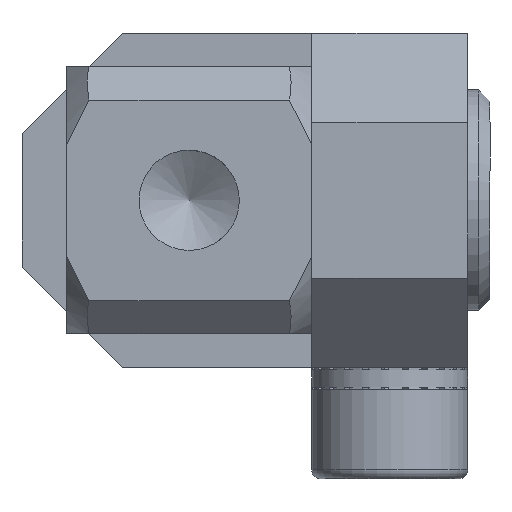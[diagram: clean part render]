
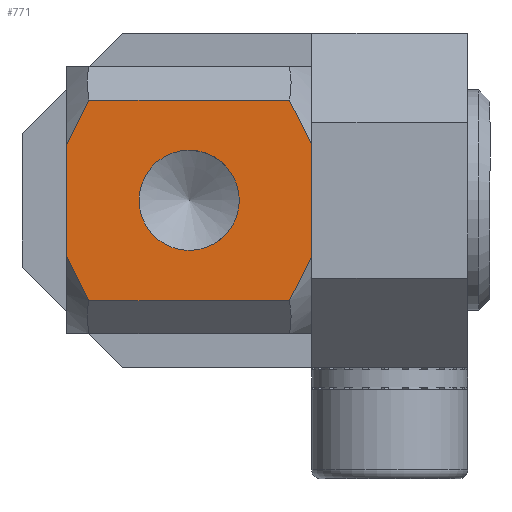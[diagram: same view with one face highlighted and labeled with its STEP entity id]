
A CAD part, front view. The second image highlights one B-rep face of the part: STEP entity #771.
In plain terms, the highlighted planar face has unit normal (0, -1, 0).
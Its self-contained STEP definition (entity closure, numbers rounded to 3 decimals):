
#771=ADVANCED_FACE('',(#1673,#1674),#1675,.T.);
#1673=FACE_OUTER_BOUND('',#3488,.T.);
#1674=FACE_BOUND('',#3489,.T.);
#1675=PLANE('',#3490);
#3488=EDGE_LOOP('',(#5041,#5042,#5043,#5044,#5045,#5046,#5047,#5048));
#3489=EDGE_LOOP('',(#5049));
#3490=AXIS2_PLACEMENT_3D('',#5050,#5051,#5052);
#5041=ORIENTED_EDGE('',*,*,#7663,.F.);
#5042=ORIENTED_EDGE('',*,*,#7664,.T.);
#5043=ORIENTED_EDGE('',*,*,#7665,.F.);
#5044=ORIENTED_EDGE('',*,*,#7666,.T.);
#5045=ORIENTED_EDGE('',*,*,#7667,.F.);
#5046=ORIENTED_EDGE('',*,*,#7668,.T.);
#5047=ORIENTED_EDGE('',*,*,#7658,.F.);
#5048=ORIENTED_EDGE('',*,*,#7669,.F.);
#5049=ORIENTED_EDGE('',*,*,#7670,.T.);
#5050=CARTESIAN_POINT('',(-6.0,-6.0,5.5));
#5051=DIRECTION('',(0.0,-1.0,0.0));
#5052=DIRECTION('',(0.0,0.0,-1.0));
#7658=EDGE_CURVE('',#9027,#9028,#9029,.T.);
#7663=EDGE_CURVE('',#9036,#9037,#9038,.T.);
#7664=EDGE_CURVE('',#9036,#9039,#9040,.T.);
#7665=EDGE_CURVE('',#9041,#9039,#9042,.T.);
#7666=EDGE_CURVE('',#9041,#9043,#9044,.T.);
#7667=EDGE_CURVE('',#9045,#9043,#9046,.T.);
#7668=EDGE_CURVE('',#9045,#9028,#9047,.T.);
#7669=EDGE_CURVE('',#9037,#9027,#9048,.T.);
#7670=EDGE_CURVE('',#9049,#9049,#9050,.F.);
#9027=VERTEX_POINT('',#11430);
#9028=VERTEX_POINT('',#11431);
#9029=B_SPLINE_CURVE_WITH_KNOTS('',3,(#11432,#11433,#11434,#11435,#11436,#11437),.UNSPECIFIED.,.F.,.F.,(4,2,4),(0.014,0.015,0.017),.UNSPECIFIED.);
#9036=VERTEX_POINT('',#11450);
#9037=VERTEX_POINT('',#11451);
#9038=B_SPLINE_CURVE_WITH_KNOTS('',3,(#11452,#11453,#11454,#11455),.UNSPECIFIED.,.F.,.F.,(4,4),(0.007,0.009),.UNSPECIFIED.);
#9039=VERTEX_POINT('',#11456);
#9040=LINE('',#11457,#11458);
#9041=VERTEX_POINT('',#11459);
#9042=B_SPLINE_CURVE_WITH_KNOTS('',3,(#11460,#11461,#11462,#11463,#11464,#11465),.UNSPECIFIED.,.F.,.F.,(4,2,4),(0.014,0.015,0.017),.UNSPECIFIED.);
#9043=VERTEX_POINT('',#11466);
#9044=LINE('',#11467,#11468);
#9045=VERTEX_POINT('',#11469);
#9046=B_SPLINE_CURVE_WITH_KNOTS('',3,(#11470,#11471,#11472,#11473),.UNSPECIFIED.,.F.,.F.,(4,4),(0.007,0.009),.UNSPECIFIED.);
#9047=LINE('',#11474,#11475);
#9048=LINE('',#11476,#11477);
#9049=VERTEX_POINT('',#11478);
#9050=CIRCLE('',#11479,2.25);
#11430=CARTESIAN_POINT('',(-2.5,-6.0,-5.5));
#11431=CARTESIAN_POINT('',(-4.5,-6.0,-4.5));
#11432=CARTESIAN_POINT('',(-2.5,-6.0,-5.5));
#11433=CARTESIAN_POINT('',(-2.85,-6.0,-5.365));
#11434=CARTESIAN_POINT('',(-3.193,-6.0,-5.209));
#11435=CARTESIAN_POINT('',(-3.858,-6.0,-4.872));
#11436=CARTESIAN_POINT('',(-4.182,-6.0,-4.691));
#11437=CARTESIAN_POINT('',(-4.5,-6.0,-4.5));
#11450=CARTESIAN_POINT('',(4.5,-6.0,-4.5));
#11451=CARTESIAN_POINT('',(2.5,-6.0,-5.5));
#11452=CARTESIAN_POINT('',(4.5,-6.0,-4.5));
#11453=CARTESIAN_POINT('',(3.861,-6.0,-4.883));
#11454=CARTESIAN_POINT('',(3.202,-6.0,-5.23));
#11455=CARTESIAN_POINT('',(2.5,-6.0,-5.5));
#11456=CARTESIAN_POINT('',(4.5,-6.0,4.5));
#11457=CARTESIAN_POINT('',(4.5,-6.0,5.5));
#11458=VECTOR('',#13679,1.0);
#11459=CARTESIAN_POINT('',(2.5,-6.0,5.5));
#11460=CARTESIAN_POINT('',(2.5,-6.0,5.5));
#11461=CARTESIAN_POINT('',(2.85,-6.0,5.365));
#11462=CARTESIAN_POINT('',(3.193,-6.0,5.209));
#11463=CARTESIAN_POINT('',(3.858,-6.0,4.872));
#11464=CARTESIAN_POINT('',(4.182,-6.0,4.691));
#11465=CARTESIAN_POINT('',(4.5,-6.0,4.5));
#11466=CARTESIAN_POINT('',(-2.5,-6.0,5.5));
#11467=CARTESIAN_POINT('',(-6.0,-6.0,5.5));
#11468=VECTOR('',#13680,1.0);
#11469=CARTESIAN_POINT('',(-4.5,-6.0,4.5));
#11470=CARTESIAN_POINT('',(-4.5,-6.0,4.5));
#11471=CARTESIAN_POINT('',(-3.861,-6.0,4.883));
#11472=CARTESIAN_POINT('',(-3.202,-6.0,5.23));
#11473=CARTESIAN_POINT('',(-2.5,-6.0,5.5));
#11474=CARTESIAN_POINT('',(-4.5,-6.0,5.5));
#11475=VECTOR('',#13681,1.0);
#11476=CARTESIAN_POINT('',(-6.0,-6.0,-5.5));
#11477=VECTOR('',#13682,1.0);
#11478=CARTESIAN_POINT('',(0.,-6.0,-2.25));
#11479=AXIS2_PLACEMENT_3D('',#13683,#13684,#13685);
#13679=DIRECTION('',(0.0,0.0,1.0));
#13680=DIRECTION('',(-1.0,0.0,0.0));
#13681=DIRECTION('',(0.0,0.0,-1.0));
#13682=DIRECTION('',(-1.0,0.0,0.0));
#13683=CARTESIAN_POINT('',(0.0,-6.0,0.));
#13684=DIRECTION('',(0.0,-1.0,0.0));
#13685=DIRECTION('',(0.0,0.0,-1.0));
